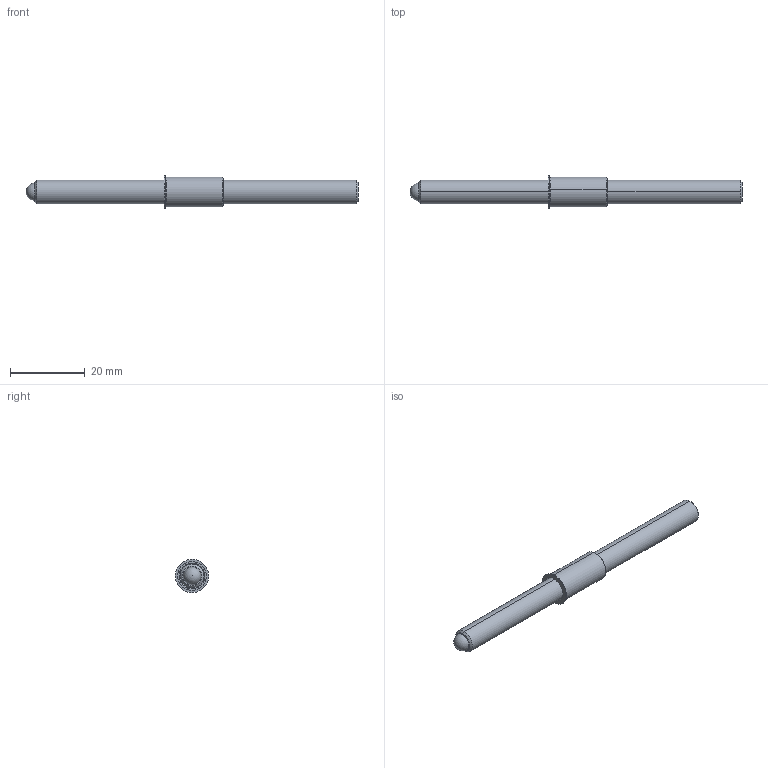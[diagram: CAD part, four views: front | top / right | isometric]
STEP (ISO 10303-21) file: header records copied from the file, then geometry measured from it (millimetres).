
FILE_DESCRIPTION (( 'STEP AP214' ), '1' );
FILE_NAME ('TSB250-80-3500_625-AA.STEP', '2013-03-14T13:16:38', ( 'workpc' ), ( 'Microsoft' ), 'SwSTEP 2.0', 'SolidWorks 2013', '' );
FILE_SCHEMA (( 'AUTOMOTIVE_DESIGN' ));
Length unit declared in the file: inch
Products named in the file (1): TSB250-80-3500_625-AA
Bounding box: 88.9 x 8.94 x 8.94 mm (x, y, z)
Surface area: 2306.1 mm2 (no closed solid volume)
Topology: 0 solids, 3 shells, 33 faces, 77 edges, 49 vertices
Faces by surface type: cone 12, plane 11, cylinder 8, sphere 2
Entity records: 1358 total; most frequent: DIRECTION 174, CARTESIAN_POINT 152, ORIENTED_EDGE 132, EDGE_CURVE 72, AXIS2_PLACEMENT_3D 68, VERTEX_POINT 46, EDGE_LOOP 38, VECTOR 38
